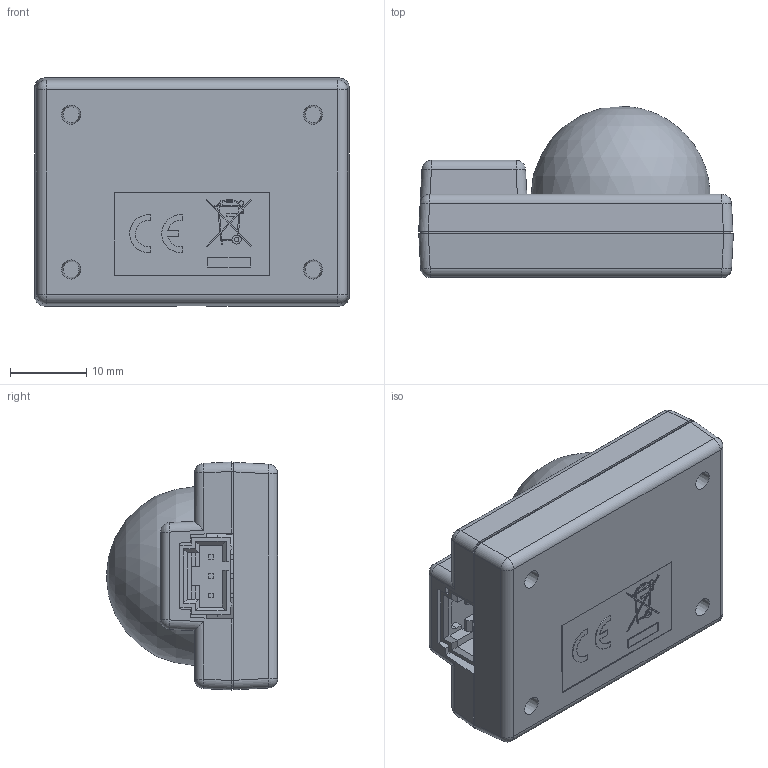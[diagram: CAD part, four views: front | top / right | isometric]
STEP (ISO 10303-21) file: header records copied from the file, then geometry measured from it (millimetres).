
FILE_DESCRIPTION(/* description */ ('Alibre Inc.'),/* implementation_level */ '2;1');
FILE_NAME(/* name */ 'export-449B127A-BEF1-4857-AA98-FBFDB0537733',/* time_stamp */ '2020-02-25T10:55:52-07:00',/* author */ (''),/* organization */ (''),/* preprocessor_version */ 'ST-DEVELOPER v17',/* originating_system */ 'Alibre',/* authorisation */ '');
FILE_SCHEMA (('CONFIG_CONTROL_DESIGN'));
Length unit declared in the file: centimetre
Products named in the file (69): ID_1; ID_2; ID_3; ID_4; ID_5; ID_6; ID_7; ID_8; ID_9; ID_10; ID_11; ID_12; ID_13; ID_14; ID_15; ID_16; ID_17; ID_18; ID_19; ID_20; ID_21; ID_22
Bounding box: 41.29 x 22.47 x 29.93 mm (x, y, z)
Volume: 8553.8 mm3; surface area: 13276.5 mm2
Topology: 71 solids, 71 shells, 1153 faces, 2887 edges, 1880 vertices
Faces by surface type: plane 917, cylinder 175, bspline 31, cone 16, sphere 14
Full cylindrical faces by diameter (mm): 0.6 x1, 0.889 x3, 0.965 x3, 3.124 x4, 3.175 x4, 10.668 x1, 21.5 x1, 23.5 x1
Entity records: 33102 total; most frequent: CARTESIAN_POINT 6310, ORIENTED_EDGE 4048, DIRECTION 3456, EDGE_CURVE 2024, VECTOR 1558, LINE 1558, VERTEX_POINT 1329, AXIS2_PLACEMENT_3D 1210
